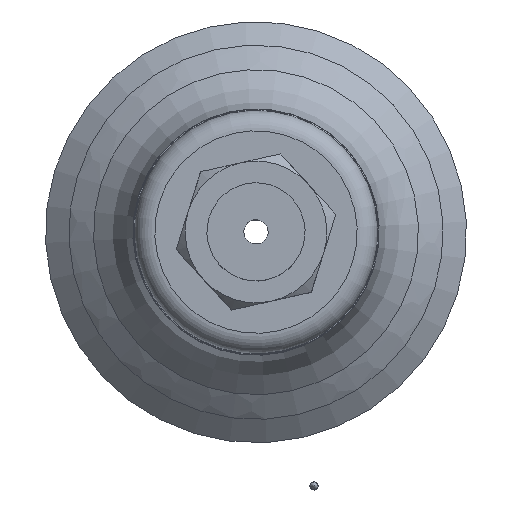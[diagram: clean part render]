
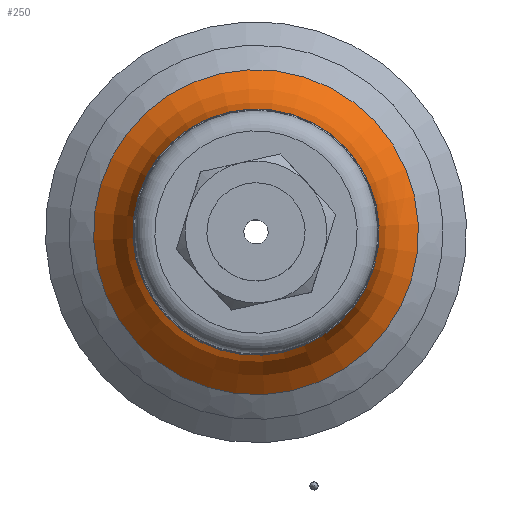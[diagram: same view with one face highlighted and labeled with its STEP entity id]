
A CAD part, top view. The second image highlights one B-rep face of the part: STEP entity #250.
In plain terms, the highlighted toroidal (fillet/blend) face has major radius 21.11 mm and minor radius 9 mm.
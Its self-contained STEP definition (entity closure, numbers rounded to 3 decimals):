
#250=ADVANCED_FACE('',(#469,#470),#471,.F.);
#469=FACE_OUTER_BOUND('',#665,.T.);
#470=FACE_OUTER_BOUND('',#666,.T.);
#471=TOROIDAL_SURFACE('',#667,21.109,9.);
#665=EDGE_LOOP('',(#1053));
#666=EDGE_LOOP('',(#1054));
#667=AXIS2_PLACEMENT_3D('',#1055,#1056,#1057);
#1053=ORIENTED_EDGE('',*,*,#1174,.T.);
#1054=ORIENTED_EDGE('',*,*,#1188,.F.);
#1055=CARTESIAN_POINT('',(0.0,0.,12.026));
#1056=DIRECTION('',(0.0,0.,1.0));
#1057=DIRECTION('',(0.0,-1.0,0.));
#1174=EDGE_CURVE('',#1331,#1331,#1332,.T.);
#1188=EDGE_CURVE('',#1352,#1352,#1353,.T.);
#1331=VERTEX_POINT('',#1780);
#1332=CIRCLE('',#1781,12.167);
#1352=VERTEX_POINT('',#1801);
#1353=CIRCLE('',#1802,16.054);
#1780=CARTESIAN_POINT('',(0.0,12.167,11.011));
#1781=AXIS2_PLACEMENT_3D('',#1904,#1905,#1906);
#1801=CARTESIAN_POINT('',(0.0,16.054,4.58));
#1802=AXIS2_PLACEMENT_3D('',#1925,#1926,#1927);
#1904=CARTESIAN_POINT('',(0.0,0.,11.011));
#1905=DIRECTION('',(0.0,0.,-1.0));
#1906=DIRECTION('',(0.0,1.0,0.));
#1925=CARTESIAN_POINT('',(0.0,0.,4.58));
#1926=DIRECTION('',(0.0,0.,-1.0));
#1927=DIRECTION('',(0.0,1.0,0.));
